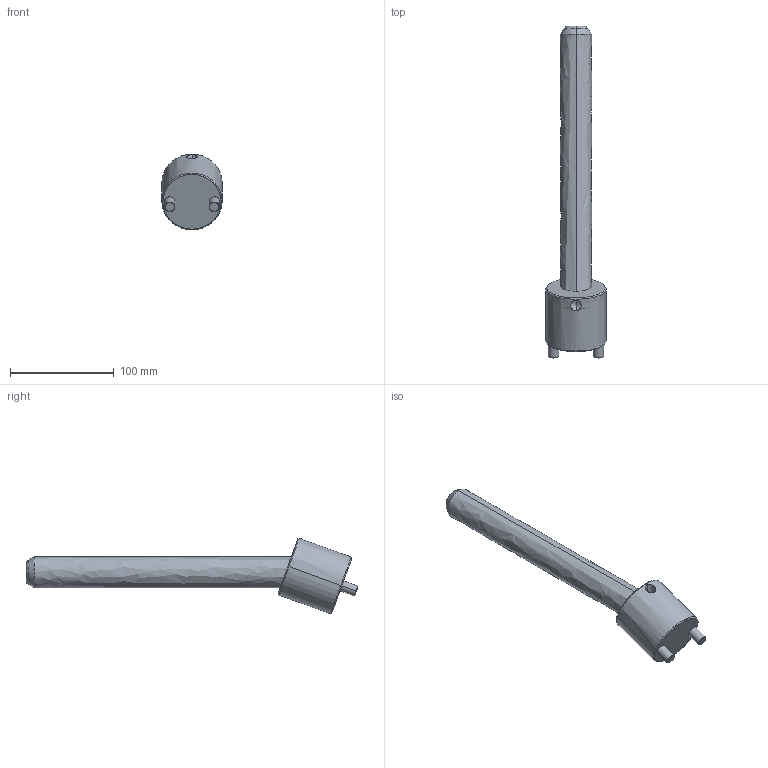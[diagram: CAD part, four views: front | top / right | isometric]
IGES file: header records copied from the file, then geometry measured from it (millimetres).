
Start section: START RECORD GO HERE.
Global section: file name: CI2030250.igs; native system: DASSAULT SYSTEMES CATIA V5 R20 - www.3ds.com; preprocessor: CATIA Version 5 Release 20 ; author: r.borello; organization: CFTORINO; date: 20190624.084659; units: millimetre
Bounding box: 58 x 319.37 x 72.63 mm (x, y, z)
Surface area: 49592.9 mm2 (no closed solid volume)
Topology: 0 solids, 0 shells, 39 faces, 162 edges, 160 vertices
Faces by surface type: revolution 32, plane 7
